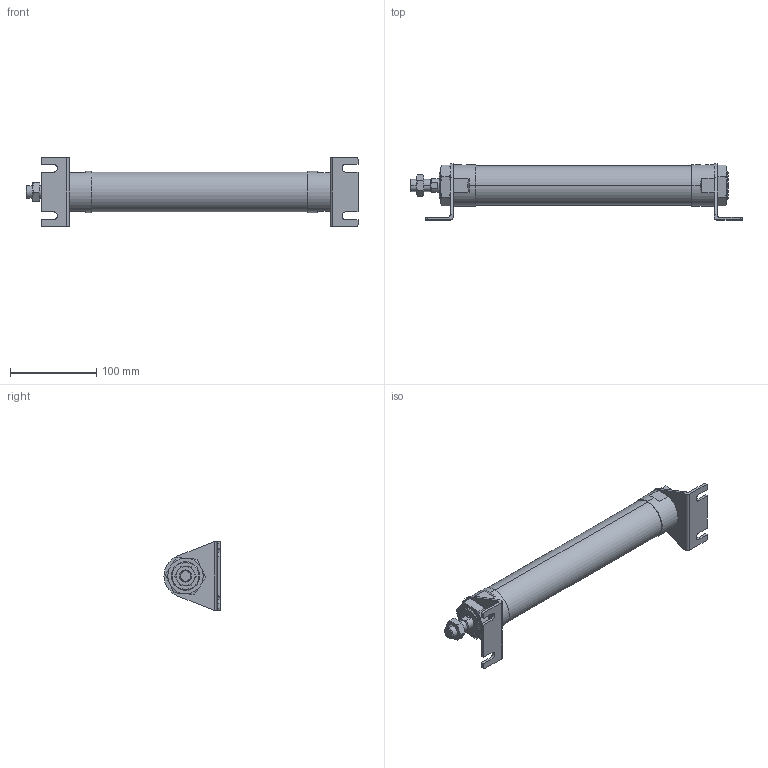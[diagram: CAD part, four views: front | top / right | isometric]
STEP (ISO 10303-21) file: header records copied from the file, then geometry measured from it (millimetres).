
FILE_DESCRIPTION (( 'STEP AP203' ), '1' );
FILE_NAME ('J#2-40-200-L.STEP', '2016-03-10T01:08:00', ( '' ), ( '' ), 'SwSTEP 2.0', 'SolidWorks 2014', '' );
FILE_SCHEMA (( 'CONFIG_CONTROL_DESIGN' ));
Length unit declared in the file: millimetre
Products named in the file (5): J#2-40-200; J#2-40-200-L; J#2-40-L
Assembly tree (6 placements, depth 2):
  J#2-40-200-L
    J#2-40-200
    (unnamed)
    (unnamed)  x2
    J#2-40-L  x2
Bounding box: 385.2 x 65 x 80 mm (x, y, z)
Volume: 589183.8 mm3; surface area: 85489.1 mm2
Topology: 6 solids, 6 shells, 170 faces, 404 edges, 249 vertices
Faces by surface type: plane 71, cylinder 48, torus 36, cone 15
Entity records: 4463 total; most frequent: CARTESIAN_POINT 1173, DIRECTION 578, ORIENTED_EDGE 558, EDGE_CURVE 279, AXIS2_PLACEMENT_3D 232, VERTEX_POINT 173, EDGE_LOOP 134, FACE_OUTER_BOUND 121
